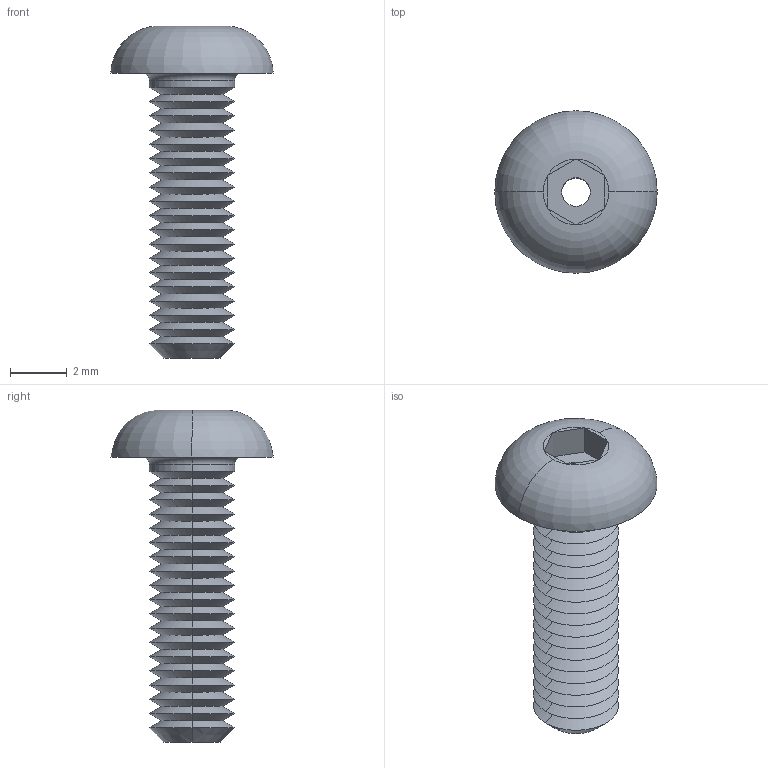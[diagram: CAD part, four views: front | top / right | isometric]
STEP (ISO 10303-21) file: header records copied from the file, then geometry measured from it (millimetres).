
FILE_DESCRIPTION (( 'STEP AP203' ), '1' );
FILE_NAME ('P0094.030-010-A2.step', '2019-07-12T16:51:29', ( '' ), ( '' ), 'SwSTEP 2.0', 'SolidWorks 2017', '' );
FILE_SCHEMA (( 'CONFIG_CONTROL_DESIGN' ));
Length unit declared in the file: millimetre
Products named in the file (1): P0094.030-010-A2
Bounding box: 5.7 x 5.7 x 11.65 mm (x, y, z)
Volume: 73.7 mm3; surface area: 255.7 mm2
Topology: 1 solids, 1 shells, 97 faces, 206 edges, 112 vertices
Faces by surface type: cone 74, plane 15, cylinder 4, torus 4
Entity records: 2639 total; most frequent: DIRECTION 494, CARTESIAN_POINT 436, ORIENTED_EDGE 412, EDGE_CURVE 206, AXIS2_PLACEMENT_3D 196, VERTEX_POINT 112, VECTOR 102, LINE 102
